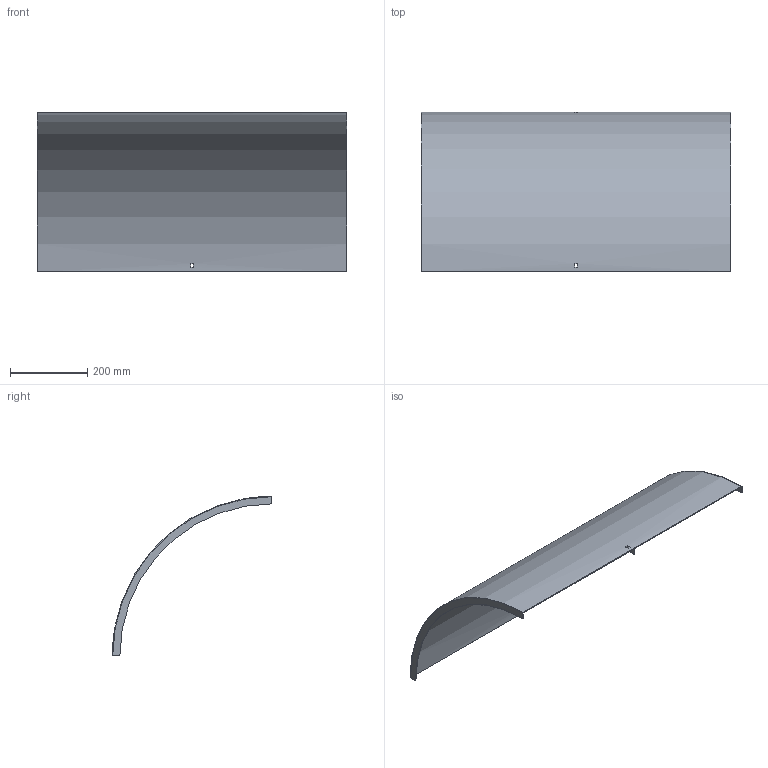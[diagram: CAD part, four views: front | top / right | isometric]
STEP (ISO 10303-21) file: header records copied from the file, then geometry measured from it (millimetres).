
FILE_DESCRIPTION (( 'STEP AP214' ), '1' );
FILE_NAME ('B2_33N3J800.step', '2025-02-21T10:47:52', ( '' ), ( '' ), 'SwSTEP 2.0', 'SolidWorks 2023', '' );
FILE_SCHEMA (( 'AUTOMOTIVE_DESIGN' ));
Length unit declared in the file: millimetre
Products named in the file (1): B2_33N3J800
Bounding box: 803 x 414 x 414 mm (x, y, z)
Volume: 816858.4 mm3; surface area: 1093617.8 mm2
Topology: 1 solids, 1 shells, 18 faces, 48 edges, 32 vertices
Faces by surface type: plane 14, cylinder 4
Entity records: 599 total; most frequent: DIRECTION 102, CARTESIAN_POINT 99, ORIENTED_EDGE 96, EDGE_CURVE 48, AXIS2_PLACEMENT_3D 35, VERTEX_POINT 32, LINE 32, VECTOR 32
